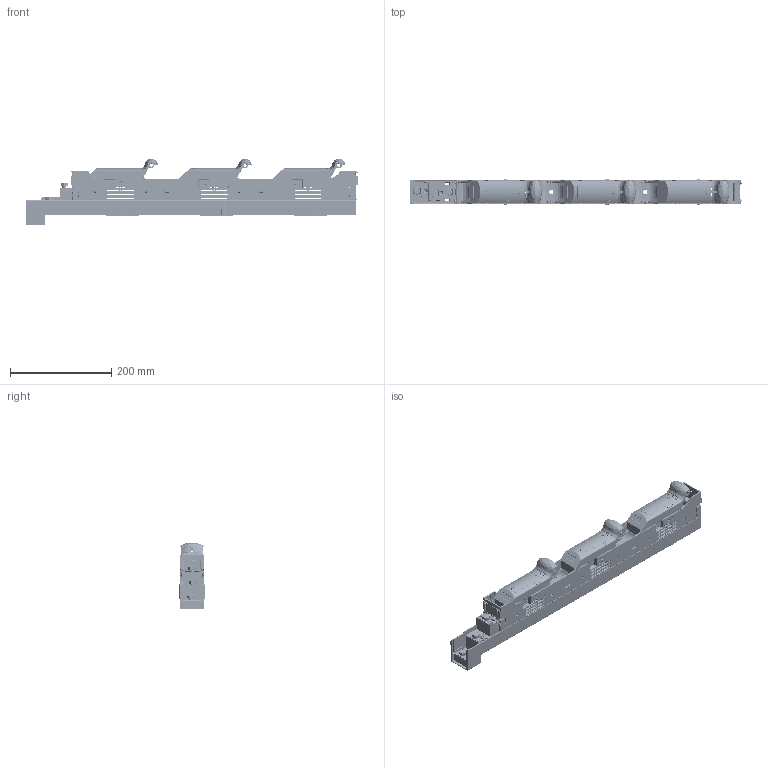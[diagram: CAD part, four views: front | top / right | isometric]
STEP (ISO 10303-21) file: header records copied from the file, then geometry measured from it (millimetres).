
FILE_DESCRIPTION (( 'STEP AP214' ), '1' );
FILE_NAME ('FSD00-31D-F__1.step', '2014-11-18T07:28:59', ( '' ), ( '' ), 'SwSTEP 2.0', 'SolidWorks 2011', '' );
FILE_SCHEMA (( 'AUTOMOTIVE_DESIGN' ));
Length unit declared in the file: millimetre
Products named in the file (1): FSD00-31D-F__1
Bounding box: 654.93 x 49.8 x 132.03 mm (x, y, z)
Volume: 555167.9 mm3; surface area: 639980 mm2
Topology: 18 solids, 18 shells, 9861 faces, 26984 edges, 17010 vertices
Faces by surface type: plane 5050, cylinder 2438, bspline 1270, cone 1103
Entity records: 469706 total; most frequent: CARTESIAN_POINT 127602, ORIENTED_EDGE 53866, DIRECTION 42019, EDGE_CURVE 26933, VERTEX_POINT 17010, VECTOR 16933, LINE 16933, AXIS2_PLACEMENT_3D 12543
